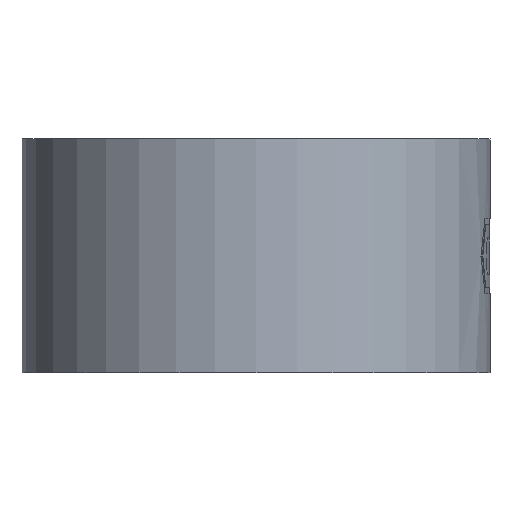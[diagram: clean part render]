
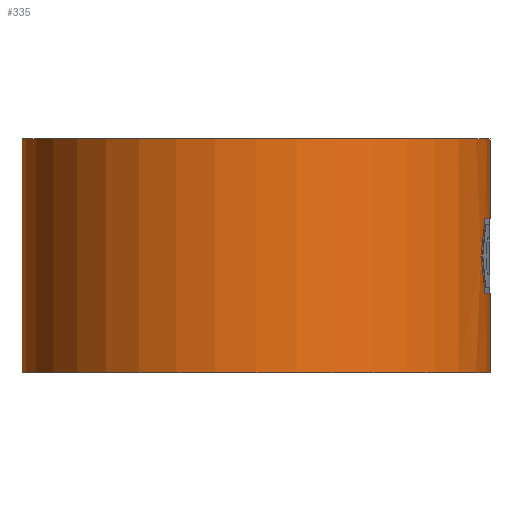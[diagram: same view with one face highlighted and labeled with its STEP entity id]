
A CAD part, front view. The second image highlights one B-rep face of the part: STEP entity #335.
In plain terms, the highlighted cylindrical face has radius 12.5 mm (diameter 25 mm), a partial arc.
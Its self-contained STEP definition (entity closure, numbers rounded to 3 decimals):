
#6 = EDGE_CURVE ( 'NONE', #355, #360, #575, .T. ) ;
#8 = VERTEX_POINT ( 'NONE', #571 ) ;
#13 = VERTEX_POINT ( 'NONE', #563 ) ;
#15 = EDGE_CURVE ( 'NONE', #127, #8, #562, .T. ) ;
#19 = EDGE_CURVE ( 'NONE', #13, #105, #551, .T. ) ;
#105 = VERTEX_POINT ( 'NONE', #891 ) ;
#118 = VERTEX_POINT ( 'NONE', #866 ) ;
#125 = ORIENTED_EDGE ( 'NONE', *, *, #328, .F. ) ;
#127 = VERTEX_POINT ( 'NONE', #854 ) ;
#326 = EDGE_CURVE ( 'NONE', #105, #118, #1242, .T. ) ;
#327 = VERTEX_POINT ( 'NONE', #1237 ) ;
#328 = EDGE_CURVE ( 'NONE', #327, #355, #1236, .T. ) ;
#329 = ORIENTED_EDGE ( 'NONE', *, *, #6, .F. ) ;
#330 = ORIENTED_EDGE ( 'NONE', *, *, #19, .F. ) ;
#331 = ORIENTED_EDGE ( 'NONE', *, *, #333, .F. ) ;
#332 = ORIENTED_EDGE ( 'NONE', *, *, #15, .T. ) ;
#333 = EDGE_CURVE ( 'NONE', #127, #13, #1231, .T. ) ;
#334 = ORIENTED_EDGE ( 'NONE', *, *, #339, .T. ) ;
#335 = ADVANCED_FACE ( 'NONE', ( #1226 ), #1225, .T. ) ;
#338 = EDGE_LOOP ( 'NONE', ( #330, #331, #332, #334, #329, #125, #390, #393, #408 ) ) ;
#339 = EDGE_CURVE ( 'NONE', #8, #360, #1213, .T. ) ;
#355 = VERTEX_POINT ( 'NONE', #1182 ) ;
#360 = VERTEX_POINT ( 'NONE', #1180 ) ;
#373 = EDGE_CURVE ( 'NONE', #327, #378, #1159, .T. ) ;
#378 = VERTEX_POINT ( 'NONE', #1149 ) ;
#390 = ORIENTED_EDGE ( 'NONE', *, *, #373, .T. ) ;
#393 = ORIENTED_EDGE ( 'NONE', *, *, #394, .F. ) ;
#394 = EDGE_CURVE ( 'NONE', #118, #378, #1122, .T. ) ;
#408 = ORIENTED_EDGE ( 'NONE', *, *, #326, .F. ) ;
#548 = DIRECTION ( 'NONE',  ( 0., 0., -1. ) ) ;
#549 = VECTOR ( 'NONE', #548, 1000. ) ;
#550 = CARTESIAN_POINT ( 'NONE',  ( 12.5, 0., 12.5 ) ) ;
#551 = LINE ( 'NONE', #550, #549 ) ;
#559 = DIRECTION ( 'NONE',  ( 0., 0., -1. ) ) ;
#560 = VECTOR ( 'NONE', #559, 1000. ) ;
#561 = CARTESIAN_POINT ( 'NONE',  ( -12.5, 0., 12.5 ) ) ;
#562 = LINE ( 'NONE', #561, #560 ) ;
#563 = CARTESIAN_POINT ( 'NONE',  ( 12.5, 0., 12.5 ) ) ;
#571 = CARTESIAN_POINT ( 'NONE',  ( -12.5, 0., 0. ) ) ;
#572 = DIRECTION ( 'NONE',  ( 0., 0., -1. ) ) ;
#573 = VECTOR ( 'NONE', #572, 1000. ) ;
#574 = CARTESIAN_POINT ( 'NONE',  ( 12.5, 0., 12.5 ) ) ;
#575 = LINE ( 'NONE', #574, #573 ) ;
#854 = CARTESIAN_POINT ( 'NONE',  ( -12.5, 0., 12.5 ) ) ;
#866 = CARTESIAN_POINT ( 'NONE',  ( 12.231, -2.582, 8.25 ) ) ;
#891 = CARTESIAN_POINT ( 'NONE',  ( 12.5, 0., 8.25 ) ) ;
#1117 = CARTESIAN_POINT ( 'NONE',  ( 12.026, -3.41, 6.25 ) ) ;
#1118 = CARTESIAN_POINT ( 'NONE',  ( 12.104, -3.136, 6.911 ) ) ;
#1119 = CARTESIAN_POINT ( 'NONE',  ( 12.172, -2.86, 7.578 ) ) ;
#1120 = CARTESIAN_POINT ( 'NONE',  ( 12.231, -2.582, 8.25 ) ) ;
#1122 = B_SPLINE_CURVE_WITH_KNOTS ( 'NONE', 3,
 ( #1120, #1119, #1118, #1117 ),
 .UNSPECIFIED., .F., .F.,
 ( 4, 4 ),
 ( 0., 1. ),
 .UNSPECIFIED. ) ;
#1149 = CARTESIAN_POINT ( 'NONE',  ( 12.026, -3.41, 6.25 ) ) ;
#1154 = CARTESIAN_POINT ( 'NONE',  ( 12.026, -3.41, 6.25 ) ) ;
#1155 = CARTESIAN_POINT ( 'NONE',  ( 12.1, -3.149, 5.62 ) ) ;
#1156 = CARTESIAN_POINT ( 'NONE',  ( 12.169, -2.873, 4.953 ) ) ;
#1157 = CARTESIAN_POINT ( 'NONE',  ( 12.231, -2.582, 4.25 ) ) ;
#1159 = B_SPLINE_CURVE_WITH_KNOTS ( 'NONE', 3,
 ( #1157, #1156, #1155, #1154 ),
 .UNSPECIFIED., .F., .F.,
 ( 4, 4 ),
 ( 0., 1. ),
 .UNSPECIFIED. ) ;
#1180 = CARTESIAN_POINT ( 'NONE',  ( 12.5, 0., 0. ) ) ;
#1182 = CARTESIAN_POINT ( 'NONE',  ( 12.5, 0., 4.25 ) ) ;
#1210 = DIRECTION ( 'NONE',  ( 1., 0., 0. ) ) ;
#1211 = DIRECTION ( 'NONE',  ( 0., 0., 1. ) ) ;
#1212 = AXIS2_PLACEMENT_3D ( 'NONE', #1219, #1211, #1210 ) ;
#1213 = CIRCLE ( 'NONE', #1212, 12.5 ) ;
#1219 = CARTESIAN_POINT ( 'NONE',  ( 0., 0., 0. ) ) ;
#1221 = DIRECTION ( 'NONE',  ( -1., 0., 0. ) ) ;
#1222 = DIRECTION ( 'NONE',  ( 0., 0., -1. ) ) ;
#1223 = CARTESIAN_POINT ( 'NONE',  ( 0., 0., 12.5 ) ) ;
#1224 = AXIS2_PLACEMENT_3D ( 'NONE', #1223, #1222, #1221 ) ;
#1225 = CYLINDRICAL_SURFACE ( 'NONE', #1224, 12.5 ) ;
#1226 = FACE_OUTER_BOUND ( 'NONE', #338, .T. ) ;
#1227 = DIRECTION ( 'NONE',  ( 1., 0., 0. ) ) ;
#1228 = DIRECTION ( 'NONE',  ( 0., 0., 1. ) ) ;
#1229 = CARTESIAN_POINT ( 'NONE',  ( 0., 0., 12.5 ) ) ;
#1230 = AXIS2_PLACEMENT_3D ( 'NONE', #1229, #1228, #1227 ) ;
#1231 = CIRCLE ( 'NONE', #1230, 12.5 ) ;
#1232 = DIRECTION ( 'NONE',  ( 0., -1., 0. ) ) ;
#1233 = DIRECTION ( 'NONE',  ( 0., 0., 1. ) ) ;
#1234 = CARTESIAN_POINT ( 'NONE',  ( 0., 0., 4.25 ) ) ;
#1235 = AXIS2_PLACEMENT_3D ( 'NONE', #1234, #1233, #1232 ) ;
#1236 = CIRCLE ( 'NONE', #1235, 12.5 ) ;
#1237 = CARTESIAN_POINT ( 'NONE',  ( 12.231, -2.582, 4.25 ) ) ;
#1238 = DIRECTION ( 'NONE',  ( 0., 1., 0. ) ) ;
#1239 = DIRECTION ( 'NONE',  ( 0., 0., -1. ) ) ;
#1240 = CARTESIAN_POINT ( 'NONE',  ( 0., 0., 8.25 ) ) ;
#1241 = AXIS2_PLACEMENT_3D ( 'NONE', #1240, #1239, #1238 ) ;
#1242 = CIRCLE ( 'NONE', #1241, 12.5 ) ;
